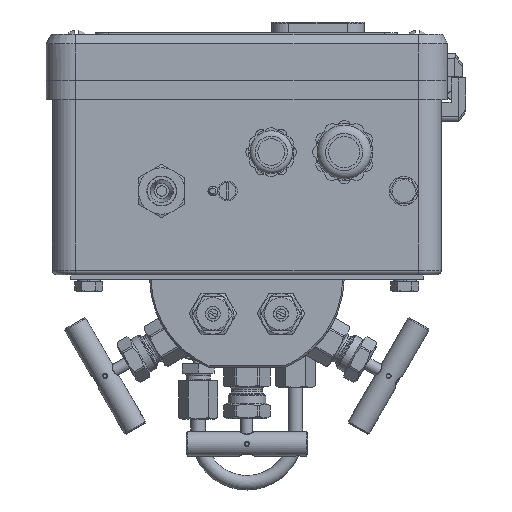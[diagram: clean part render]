
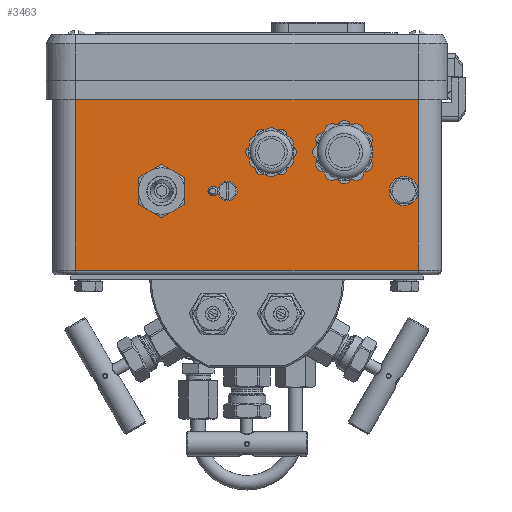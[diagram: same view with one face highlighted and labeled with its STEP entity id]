
A CAD part, left-side view. The second image highlights one B-rep face of the part: STEP entity #3463.
In plain terms, the highlighted planar face has unit normal (-1, 0, 0).
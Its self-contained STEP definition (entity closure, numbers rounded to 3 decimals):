
#3463=ADVANCED_FACE('',(#20215,#20217,#20219,#20221,#20223,#20225,#20227),#20229,
.T.);
#20215=FACE_BOUND('',#20216,.T.);
#20216=EDGE_LOOP('',(#55431,#55432,#55433,#55434));
#20217=FACE_BOUND('',#20218,.T.);
#20218=EDGE_LOOP('',(#55435));
#20219=FACE_BOUND('',#20220,.T.);
#20220=EDGE_LOOP('',(#55436));
#20221=FACE_BOUND('',#20222,.T.);
#20222=EDGE_LOOP('',(#55437));
#20223=FACE_BOUND('',#20224,.T.);
#20224=EDGE_LOOP('',(#55438));
#20225=FACE_BOUND('',#20226,.T.);
#20226=EDGE_LOOP('',(#55439));
#20227=FACE_BOUND('',#20228,.T.);
#20228=EDGE_LOOP('',(#55440));
#20229=PLANE('',#20230);
#20230=AXIS2_PLACEMENT_3D('',#20231,#20232,#20233);
#20231=CARTESIAN_POINT('',(-80.,-70.5,0.));
#20232=DIRECTION('',(-1.,0.,0.));
#20233=DIRECTION('',(0.,0.,-1.));
#55431=ORIENTED_EDGE('',*,*,#79479,.T.);
#55432=ORIENTED_EDGE('',*,*,#79480,.F.);
#55433=ORIENTED_EDGE('',*,*,#79481,.F.);
#55434=ORIENTED_EDGE('',*,*,#79482,.F.);
#55435=ORIENTED_EDGE('',*,*,#79483,.T.);
#55436=ORIENTED_EDGE('',*,*,#79390,.T.);
#55437=ORIENTED_EDGE('',*,*,#79392,.T.);
#55438=ORIENTED_EDGE('',*,*,#79394,.T.);
#55439=ORIENTED_EDGE('',*,*,#79396,.T.);
#55440=ORIENTED_EDGE('',*,*,#79398,.T.);
#79390=EDGE_CURVE('',#95270,#95270,#95271,.F.);
#79392=EDGE_CURVE('',#95274,#95274,#95275,.F.);
#79394=EDGE_CURVE('',#95278,#95278,#95279,.F.);
#79396=EDGE_CURVE('',#95282,#95282,#95283,.F.);
#79398=EDGE_CURVE('',#95286,#95286,#95287,.F.);
#79479=EDGE_CURVE('',#95424,#95425,#95426,.T.);
#79480=EDGE_CURVE('',#95427,#95425,#95428,.T.);
#79481=EDGE_CURVE('',#95429,#95427,#95430,.T.);
#79482=EDGE_CURVE('',#95424,#95429,#95431,.T.);
#79483=EDGE_CURVE('',#95432,#95432,#95433,.T.);
#95270=VERTEX_POINT('',#114717);
#95271=CIRCLE('',#114718,7.5);
#95274=VERTEX_POINT('',#114727);
#95275=CIRCLE('',#114728,6.5);
#95278=VERTEX_POINT('',#114737);
#95279=CIRCLE('',#114738,6.15);
#95282=VERTEX_POINT('',#114747);
#95283=CIRCLE('',#114748,2.);
#95286=VERTEX_POINT('',#114757);
#95287=CIRCLE('',#114758,2.);
#95424=VERTEX_POINT('',#115098);
#95425=VERTEX_POINT('',#115099);
#95426=LINE('',#115100,#115101);
#95427=VERTEX_POINT('',#115103);
#95428=LINE('',#115104,#115105);
#95429=VERTEX_POINT('',#115107);
#95430=LINE('',#115108,#115109);
#95431=LINE('',#115111,#115112);
#95432=VERTEX_POINT('',#115114);
#95433=CIRCLE('',#115115,3.);
#114717=CARTESIAN_POINT('',(-80.,-32.5,50.5));
#114718=AXIS2_PLACEMENT_3D('',#114719,#114720,#114721);
#114719=CARTESIAN_POINT('',(-80.,-40.,50.5));
#114720=DIRECTION('',(-1.,0.,0.));
#114721=DIRECTION('',(0.,1.,0.));
#114727=CARTESIAN_POINT('',(-80.,-10.,57.));
#114728=AXIS2_PLACEMENT_3D('',#114729,#114730,#114731);
#114729=CARTESIAN_POINT('',(-80.,-10.,50.5));
#114730=DIRECTION('',(-1.,0.,0.));
#114731=DIRECTION('',(0.,0.,1.));
#114737=CARTESIAN_POINT('',(-80.,35.,28.35));
#114738=AXIS2_PLACEMENT_3D('',#114739,#114740,#114741);
#114739=CARTESIAN_POINT('',(-80.,35.,34.5));
#114740=DIRECTION('',(-1.,0.,0.));
#114741=DIRECTION('',(0.,0.,-1.));
#114747=CARTESIAN_POINT('',(-80.,14.,32.5));
#114748=AXIS2_PLACEMENT_3D('',#114749,#114750,#114751);
#114749=CARTESIAN_POINT('',(-80.,14.,34.5));
#114750=DIRECTION('',(-1.,0.,0.));
#114751=DIRECTION('',(0.,0.,-1.));
#114757=CARTESIAN_POINT('',(-80.,8.,32.5));
#114758=AXIS2_PLACEMENT_3D('',#114759,#114760,#114761);
#114759=CARTESIAN_POINT('',(-80.,8.,34.5));
#114760=DIRECTION('',(-1.,0.,0.));
#114761=DIRECTION('',(0.,0.,-1.));
#115098=CARTESIAN_POINT('',(-80.,-70.5,72.));
#115099=CARTESIAN_POINT('',(-80.,70.5,72.));
#115100=CARTESIAN_POINT('',(-80.,-70.5,72.));
#115101=VECTOR('',#115102,1.);
#115102=DIRECTION('',(0.,1.,0.));
#115103=CARTESIAN_POINT('',(-80.,70.5,2.));
#115104=CARTESIAN_POINT('',(-80.,70.5,2.));
#115105=VECTOR('',#115106,1.);
#115106=DIRECTION('',(0.,0.,1.));
#115107=CARTESIAN_POINT('',(-80.,-70.5,2.));
#115108=CARTESIAN_POINT('',(-80.,-70.5,2.));
#115109=VECTOR('',#115110,1.);
#115110=DIRECTION('',(0.,1.,0.));
#115111=CARTESIAN_POINT('',(-80.,-70.5,72.));
#115112=VECTOR('',#115113,1.);
#115113=DIRECTION('',(0.,0.,-1.));
#115114=CARTESIAN_POINT('',(-80.,-64.5,37.5));
#115115=AXIS2_PLACEMENT_3D('',#115116,#115117,#115118);
#115116=CARTESIAN_POINT('',(-80.,-64.5,34.5));
#115117=DIRECTION('',(1.,0.,0.));
#115118=DIRECTION('',(0.,0.,-1.));
